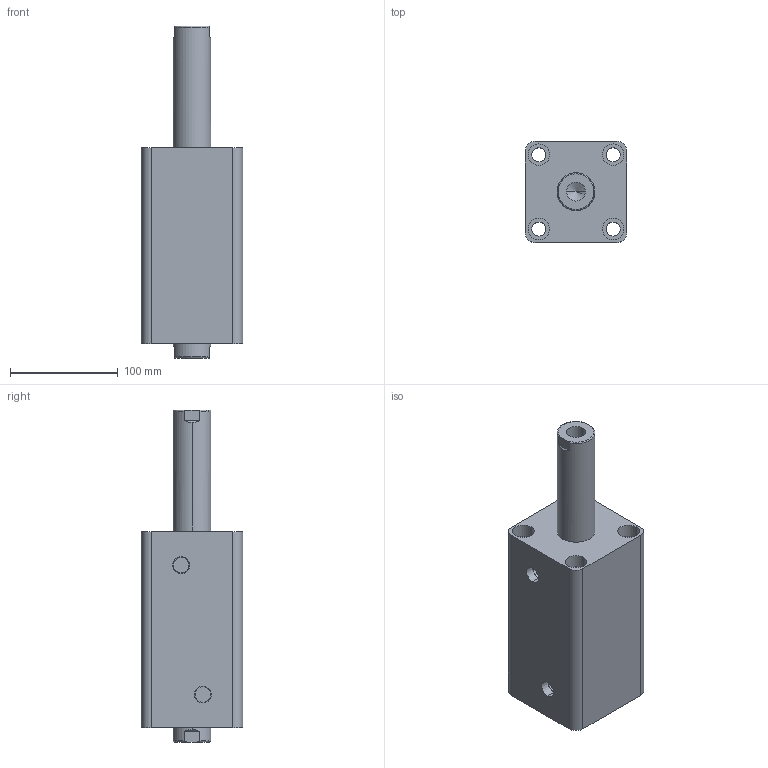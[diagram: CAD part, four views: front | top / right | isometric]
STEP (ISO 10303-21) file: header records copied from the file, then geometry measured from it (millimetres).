
FILE_DESCRIPTION (( 'STEP AP203' ), '1' );
FILE_NAME ('HTB-SW63-100N.STEP', '2019-10-07T10:09:47', ( '微软用户' ), ( '微软中国' ), 'SwSTEP 2.0', 'SolidWorks 2012', '' );
FILE_SCHEMA (( 'CONFIG_CONTROL_DESIGN' ));
Length unit declared in the file: millimetre
Products named in the file (3): HTB-SW63-100N; HTB-SW63-100N活塞杆; HTB-SW63-100掛极
Assembly tree (2 placements, depth 2):
  HTB-SW63-100N
    HTB-SW63-100掛极
    HTB-SW63-100N活塞杆
Bounding box: 94 x 94 x 308 mm (x, y, z)
Volume: 1370906.4 mm3; surface area: 191771.1 mm2
Topology: 2 solids, 2 shells, 100 faces, 228 edges, 146 vertices
Faces by surface type: cylinder 48, plane 32, torus 12, cone 8
Entity records: 3253 total; most frequent: CARTESIAN_POINT 611, DIRECTION 542, ORIENTED_EDGE 448, AXIS2_PLACEMENT_3D 229, EDGE_CURVE 224, VERTEX_POINT 146, EDGE_LOOP 128, CIRCLE 124
